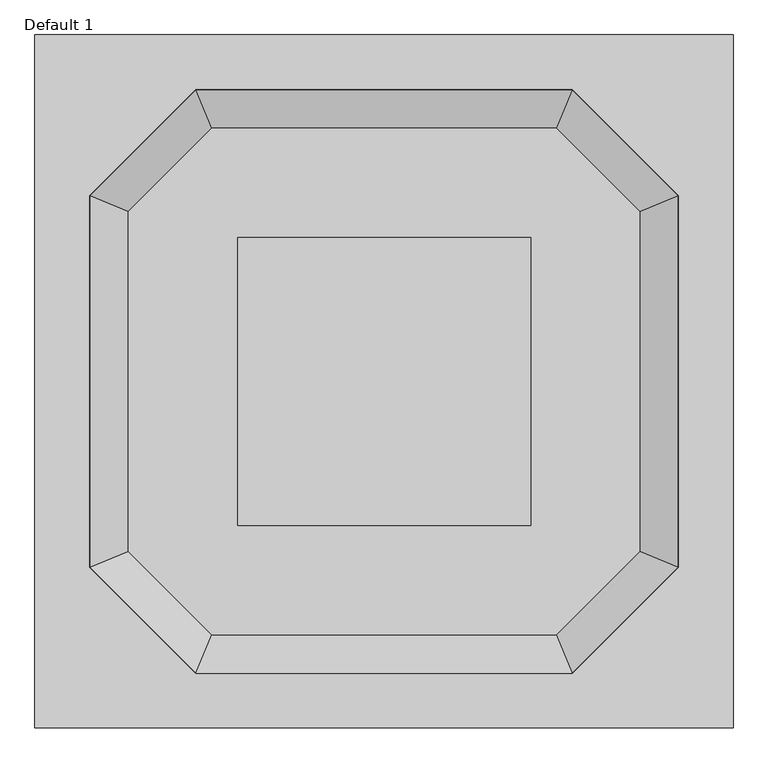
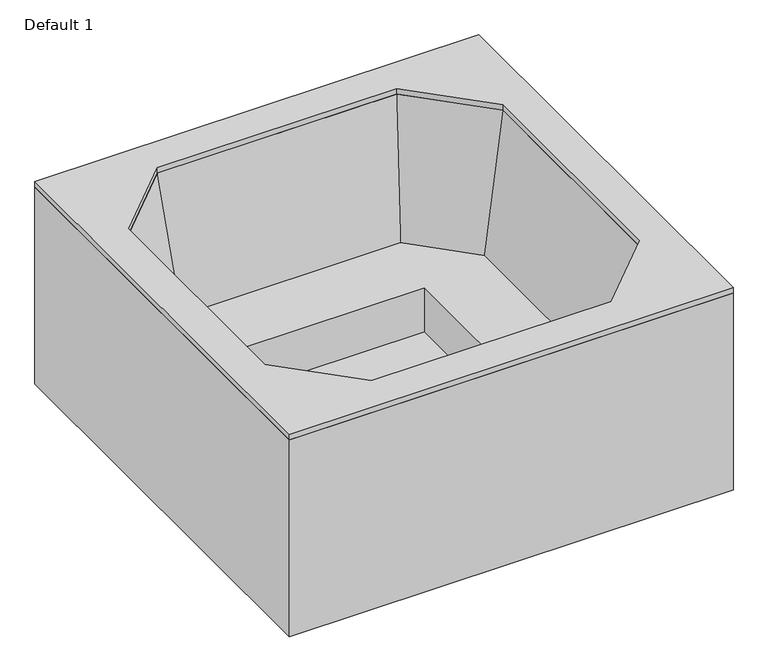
"""IFC4 building model written with IfcOpenShell, lengths in millimetres: flow terminal geometry, Bath-Hottub : Default 1."""

from ifc_helpers import new_model, si_unit, frame, origin, origin_with_axes, place, context, project, spatial, polyline, outline, extrude, faceted_brep, source, transform, mapped, element, save


def default_1_5ae3063e(model_context):
    return source(origin(), model_context, "Body", "SolidModel", [
        extrude(outline(polyline([(408.8509531, 402.0689168), (408.8509531, -402.0689168), (-408.5189168, -402.0689168), (-408.5189168, 402.0689168), (408.8509531, 402.0689168)])), frame((0.0, 0.0, 75.5267346), z_axis=(0.0, 0.0, 1.0), x_axis=(1.0, 0.0, 0.0)), (0.0, 0.0, 1.0), 25.4),
        extrude(outline(polyline([(713.6509531, 474.3277013), (713.6509531, -474.3277013), (481.1097376, -706.8689168), (-481.1097376, -706.8689168), (-713.3189168, -474.6597376), (-713.3189168, 474.6597376), (-481.1097376, 706.8689168), (481.1097376, 706.8689168), (713.6509531, 474.3277013)]), holes=[polyline([(-408.5189168, 402.0689168), (-408.5189168, -402.0689168), (408.8509531, -402.0689168), (408.8509531, 402.0689168), (-408.5189168, 402.0689168)])]), frame((0.0, 0.0, 100.9267346), z_axis=(0.0, 0.0, 1.0), x_axis=(1.0, 0.0, 0.0)), (0.0, 0.0, 1.0), 203.8732654),
        faceted_brep([(821.675, -519.0727266, 914.4), (713.6509531, -474.3277013, 301.7651865), (481.1097376, -706.8689168, 301.7651865), (525.8547629, -814.8929637, 914.4), (847.075, -529.5937511, 914.4), (536.3757874, -840.2929637, 914.4), (739.0509531, -484.8487258, 301.7651865), (491.6307621, -732.2689168, 301.7651865), (-481.1097376, -706.8689168, 301.7651865), (-525.8547629, -814.8929637, 914.4), (-536.3757874, -840.2929637, 914.4), (-491.6307621, -732.2689168, 301.7651865), (-713.3189168, -474.6597376, 301.7651865), (-821.3429637, -519.4047629, 914.4), (-846.7429637, -529.9257874, 914.4), (-738.7189168, -485.1807621, 301.7651865), (-713.3189168, 474.6597376, 301.7651865), (-821.3429637, 519.4047629, 914.4), (-846.7429637, 529.9257874, 914.4), (-738.7189168, 485.1807621, 301.7651865), (-481.1097376, 706.8689168, 301.7651865), (-525.8547629, 814.8929637, 914.4), (-536.3757874, 840.2929637, 914.4), (-491.6307621, 732.2689168, 301.7651865), (481.1097376, 706.8689168, 301.7651865), (525.8547629, 814.8929637, 914.4), (536.3757874, 840.2929637, 914.4), (491.6307621, 732.2689168, 301.7651865), (713.6509531, 474.3277013, 301.7651865), (821.675, 519.0727266, 914.4), (847.075, 529.5937511, 914.4), (739.0509531, 484.8487258, 301.7651865)], [[[0, 1, 2, 3]], [[4, 0, 3, 5]], [[6, 4, 5, 7]], [[1, 6, 7, 2]], [[3, 2, 8, 9]], [[5, 3, 9, 10]], [[7, 5, 10, 11]], [[2, 7, 11, 8]], [[9, 8, 12, 13]], [[10, 9, 13, 14]], [[11, 10, 14, 15]], [[8, 11, 15, 12]], [[13, 12, 16, 17]], [[14, 13, 17, 18]], [[15, 14, 18, 19]], [[12, 15, 19, 16]], [[17, 16, 20, 21]], [[18, 17, 21, 22]], [[19, 18, 22, 23]], [[16, 19, 23, 20]], [[21, 20, 24, 25]], [[22, 21, 25, 26]], [[23, 22, 26, 27]], [[20, 23, 27, 24]], [[25, 24, 28, 29]], [[26, 25, 29, 30]], [[27, 26, 30, 31]], [[24, 27, 31, 28]], [[29, 28, 1, 0]], [[30, 29, 0, 4]], [[31, 30, 4, 6]], [[28, 31, 6, 1]]]),
        extrude(outline(polyline([(974.075, -967.625), (-974.075, -967.625), (-974.075, 967.625), (974.075, 967.625), (974.075, -967.625)]), holes=[polyline([(525.966252, -815.225), (821.675, -519.516252), (821.675, 519.516252), (525.966252, 815.225), (-525.966252, 815.225), (-821.675, 519.516252), (-821.675, -519.516252), (-525.966252, -815.225), (525.966252, -815.225)])]), frame((0.0, 0.0, 914.4), z_axis=(0.0, 0.0, 1.0), x_axis=(1.0, 0.0, 0.0)), (0.0, 0.0, 1.0), 25.4),
        extrude(outline(polyline([(974.075, -967.625), (-974.075, -967.625), (-974.075, 967.625), (974.075, 967.625), (974.075, -967.625)]), holes=[polyline([(942.325, -935.875), (942.325, 935.875), (-942.325, 935.875), (-942.325, -935.875), (942.325, -935.875)])]), origin_with_axes(), (0.0, 0.0, 1.0), 914.4),
    ])


if __name__ == "__main__":
    model = new_model("IFC4")
    model_context = context("Model", 3, world=origin())
    ifc_project = project(units=[si_unit("LENGTHUNIT", "METRE", prefix="MILLI")], contexts=[model_context])
    site = spatial("IfcSite", under=ifc_project)
    building = spatial("IfcBuilding", under=site)
    placement = place(None, origin())
    default_1_shape = default_1_5ae3063e(model_context)
    element("IfcFlowTerminal", 1, ObjectType="Bath-Hottub : Default 1", at=placement, inside=building, context=model_context, shape_type="MappedRepresentation", body=[
        mapped(default_1_shape, transform((0.0, 0.0, 0.0), x_axis=(1.0, 0.0, 0.0), y_axis=(0.0, 1.0, 0.0), z_axis=(0.0, 0.0, 1.0))),
    ])
    save(model, "model.ifc")
